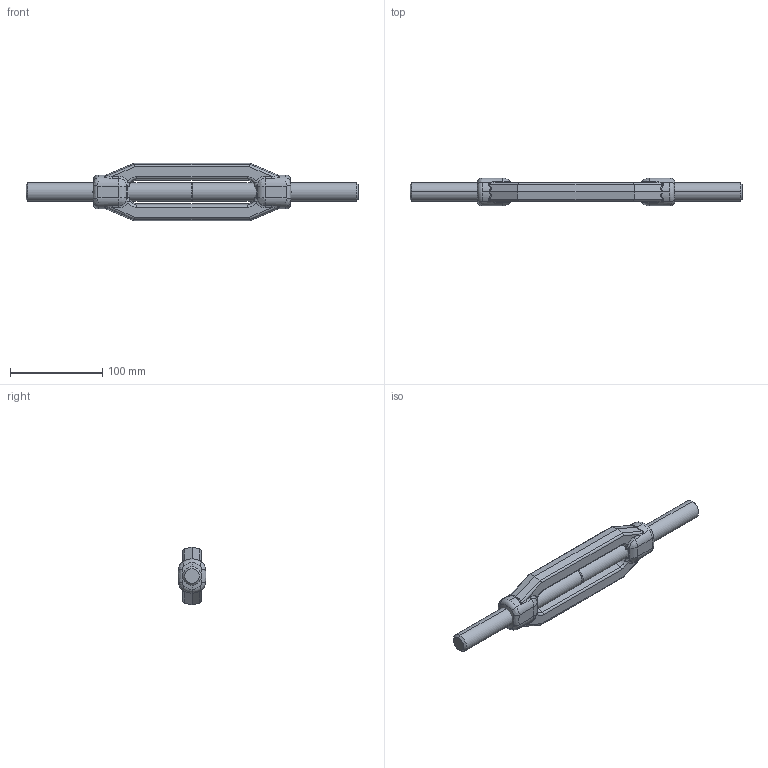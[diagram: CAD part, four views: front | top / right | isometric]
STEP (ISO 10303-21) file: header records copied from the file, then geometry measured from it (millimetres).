
FILE_DESCRIPTION (( 'STEP AP203' ), '1' );
FILE_NAME ('TBSS20.STEP', '2010-01-11T22:32:14', ( ' ' ), ( ' ' ), 'SwSTEP 2.0', 'SolidWorks 2003240', '' );
FILE_SCHEMA (( 'CONFIG_CONTROL_DESIGN' ));
Length unit declared in the file: millimetre
Products named in the file (4): TBFB20_TBG 24; STUBMLH20; STUBMRH20; TBSS20
Assembly tree (3 placements, depth 2):
  TBSS20
    STUBMLH20
    STUBMRH20
    TBFB20_TBG 24
Bounding box: 360 x 29.9 x 62 mm (x, y, z)
Volume: 264338.3 mm3; surface area: 57635.9 mm2
Topology: 3 solids, 3 shells, 528 faces, 1344 edges, 850 vertices
Faces by surface type: plane 270, bspline 162, cylinder 58, torus 22, cone 16
Entity records: 56594 total; most frequent: CARTESIAN_POINT 44546, ORIENTED_EDGE 2688, DIRECTION 1916, EDGE_CURVE 1344, VERTEX_POINT 850, LINE 820, VECTOR 820, EDGE_LOOP 562
